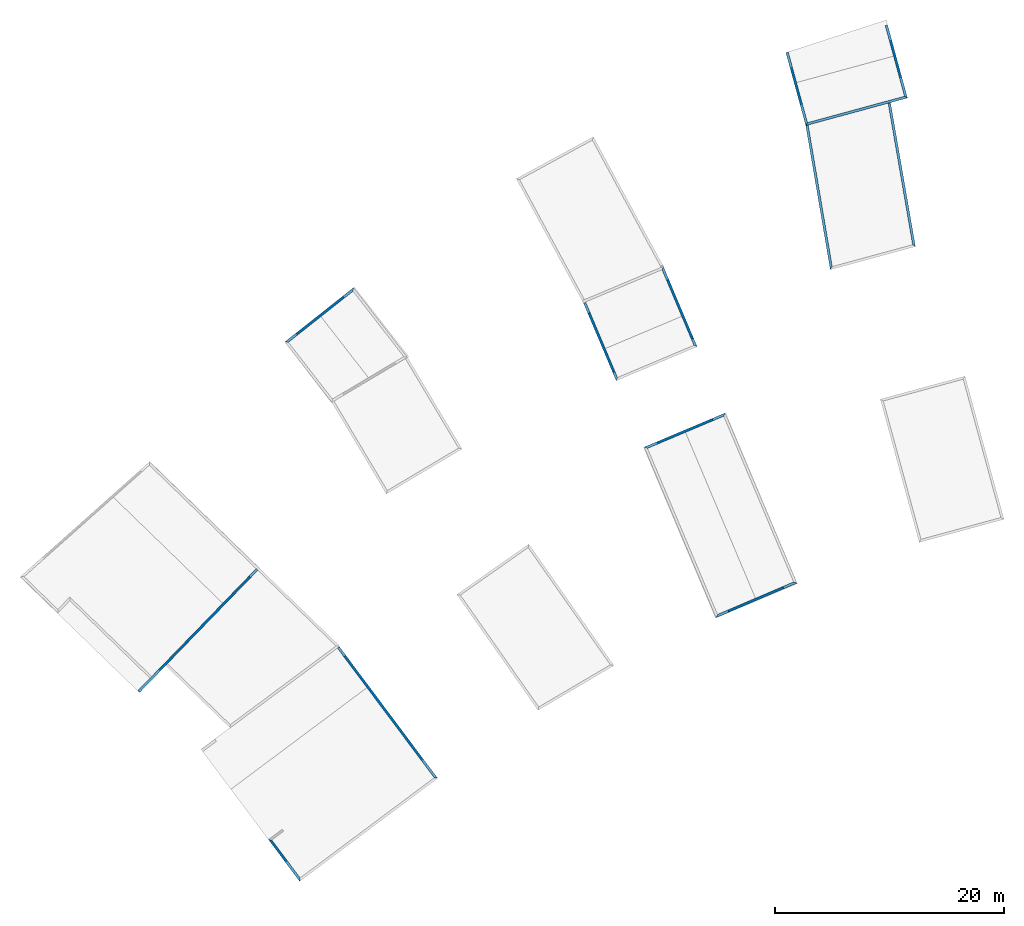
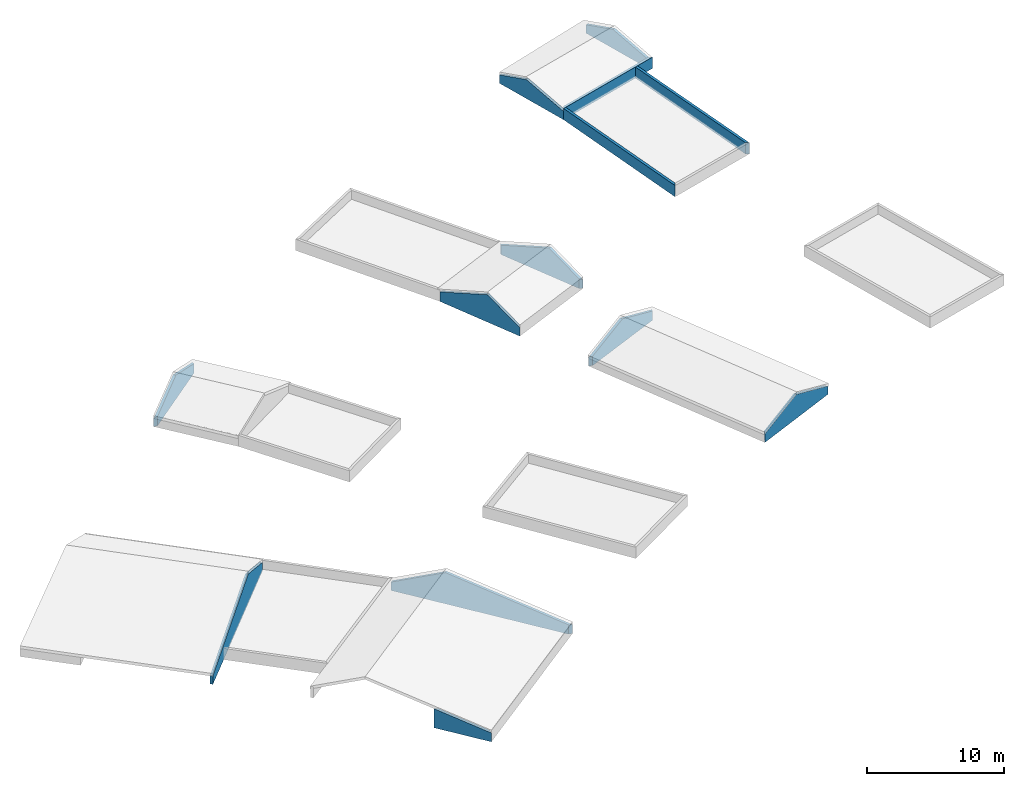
# One storey, part 3 of 4: 13 walls.
"""IFC2X3 building model written with IfcOpenShell, lengths in metres."""

from ifc_helpers import new_model, entity, si_unit, converted_unit, derived_unit, money_unit, direction, frame, origin_with_axes, place, context, subcontext, project, spatial, polyline, outline, extrude, boolean, faceted_brep, material, layer, layer_set, layer_usage, type_object, element, save


model = new_model("IFC2X3")

# Units and contexts
model_context = context("Model", 3, precision=1e-05, world=origin_with_axes(), true_north=direction((0.0, 1.0)))
body_context = subcontext(model_context, "Body", "Model", "MODEL_VIEW")
ifc_project = project(units=[si_unit("LENGTHUNIT", "METRE"), si_unit("AREAUNIT", "SQUARE_METRE"), si_unit("VOLUMEUNIT", "CUBIC_METRE"), converted_unit("PLANEANGLEUNIT", "DEGREE", entity("IfcPlaneAngleMeasure", 0.0174532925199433), si_unit("PLANEANGLEUNIT", "RADIAN"), dimensions=[0, 0, 0, 0, 0, 0, 0]), money_unit("CHF"), converted_unit("TIMEUNIT", "Year", entity("IfcTimeMeasure", 31557600.0), si_unit("TIMEUNIT", "SECOND"), dimensions=[0, 0, 1, 0, 0, 0, 0]), si_unit("MASSUNIT", "GRAM", prefix="KILO"), si_unit("THERMODYNAMICTEMPERATUREUNIT", "DEGREE_CELSIUS"), si_unit("LUMINOUSINTENSITYUNIT", "LUMEN"), si_unit("ENERGYUNIT", "JOULE", prefix="MEGA"), derived_unit("THERMALCONDUCTANCEUNIT", [(si_unit("POWERUNIT", "WATT"), 1), (si_unit("LENGTHUNIT", "METRE"), -1), (si_unit("THERMODYNAMICTEMPERATUREUNIT", "KELVIN"), -1)]), derived_unit("SPECIFICHEATCAPACITYUNIT", [(si_unit("ENERGYUNIT", "JOULE"), 1), (si_unit("MASSUNIT", "GRAM", prefix="KILO"), -1), (si_unit("THERMODYNAMICTEMPERATUREUNIT", "KELVIN"), -1)]), derived_unit("MASSDENSITYUNIT", [(si_unit("MASSUNIT", "GRAM", prefix="KILO"), 1), (si_unit("VOLUMEUNIT", "CUBIC_METRE"), -1)])], contexts=[model_context])

# Site, building, storey
site_placement = place(None, origin_with_axes())
site = spatial("IfcSite", under=ifc_project, at=site_placement, Name="Site", CompositionType="ELEMENT")
building_placement = place(site_placement, origin_with_axes())
building = spatial("IfcBuilding", under=site, at=building_placement, Name="Bâtiment", CompositionType="ELEMENT")
storey_placement = place(building_placement, frame((0.0, 0.0, 5.5), z_axis=(0.0, 0.0, 1.0), x_axis=(1.0, 0.0, 0.0)))
storey = spatial("IfcBuildingStorey", under=building, at=storey_placement, Name="Etage 2", CompositionType="ELEMENT", Elevation=5.5)

# Walls
ifc_material = material(Name="Empty Fill 3000033799")
ifc_layer = layer(ifc_material, 0.22, ventilated="UNKNOWN")
ifc_layer_set = layer_set([ifc_layer], Name="acrotère 22")
ifc_layer_usage_1 = layer_usage(ifc_layer_set, "AXIS2", "POSITIVE", 0.0)
wall_type = type_object("IfcWallType", Name="acrotère 22 220", PredefinedType="NOTDEFINED")
wall_1_placement = place(storey_placement, frame((9579.832207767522, -1023.042735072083, 57.7), z_axis=(0.0, 0.0, 1.0), x_axis=(0.9648682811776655, 0.2627340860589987, 0.0)))
element("IfcWallStandardCase", 1, at=wall_1_placement, inside=storey, type_object=wall_type, material=ifc_layer_usage_1, Name="Mur-136", context=body_context, shape_type="SweptSolid", body=[
    extrude(outline(polyline([(-4.379558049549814e-09, 0.0), (9.203564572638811, 0.0), (8.983564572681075, 0.2199999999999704), (0.2199999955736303, 0.2199999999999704), (-4.379558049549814e-09, 0.0)])), origin_with_axes(), (0.0, 0.0, 1.0), 1.0),
])
wall_2_placement = place(storey_placement, frame((9572.003445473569, -1066.004746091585, 57.7), z_axis=(0.0, 0.0, 1.0), x_axis=(0.9196673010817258, 0.3926984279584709, 0.0)))
element("IfcWall", 2, at=wall_2_placement, inside=storey, type_object=wall_type, material=ifc_material, Name="Mur-136", context=body_context, shape_type="CSG", body=[
    boolean("DIFFERENCE", extrude(outline(polyline([(0.0, 0.0), (7.670985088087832, 0.0), (7.670985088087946, 0.2199999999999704), (0.0, 0.2199999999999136), (0.0, 0.0)])), origin_with_axes(), (0.0, 0.0, 1.0), 2.401810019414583), faceted_brep([(0.0, 0.0, 0.7598554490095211), (3.824402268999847, 0.0, 2.151810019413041), (7.669997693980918, 0.0, 0.7521418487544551), (7.669997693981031, 0.0, 0.0), (7.670985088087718, 0.0, 0.0), (7.670985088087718, 0.0, 2.40181001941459), (0.0, 0.0, 2.40181001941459), (0.2209958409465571, 0.2199999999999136, 0.8399311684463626), (3.825389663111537, 0.2199999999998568, 2.151810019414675), (7.450982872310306, 0.2199999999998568, 0.8322153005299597), (7.450982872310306, 0.2199999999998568, 0.0), (7.670985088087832, 0.2199999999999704, 0.0), (7.670985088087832, 0.2199999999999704, 2.40181001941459), (0.0, 0.2199999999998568, 2.40181001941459), (0.0, 0.0, 0.0), (0.0, 0.2199999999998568, 0.0), (0.2209958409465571, 0.2199999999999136, 0.0)], [[[0, 1, 2, 3, 4, 5, 6]], [[1, 0, 7, 8]], [[2, 1, 8, 9]], [[3, 2, 9, 10]], [[3, 10, 11, 4]], [[5, 4, 11, 12]], [[13, 6, 5, 12]], [[14, 0, 6, 13, 15]], [[16, 7, 0, 14]], [[7, 16, 15, 13, 12, 11, 10, 9, 8]], [[16, 14, 15]]])),
])
wall_3_placement = place(storey_placement, frame((9578.094746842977, -1016.66205963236, 57.7), z_axis=(0.0, 0.0, 1.0), x_axis=(0.2627340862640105, -0.9648682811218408, 0.0)))
element("IfcWall", 3, at=wall_3_placement, inside=storey, type_object=wall_type, material=ifc_material, Name="Mur-136", context=body_context, shape_type="CSG", body=[
    boolean("DIFFERENCE", extrude(outline(polyline([(-0.0106371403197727, 0.0), (6.613001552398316, 0.0), (6.613001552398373, 0.2199999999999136), (-0.01063714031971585, 0.2200000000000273), (-0.0106371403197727, 0.0)])), origin_with_axes(), (0.0, 0.0, 1.0), 1.935716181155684), faceted_brep([(1.508055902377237e-10, 0.220000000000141, 0.7417163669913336), (0.0, 0.2200000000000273, 0.0), (-0.01063714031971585, 0.220000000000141, 0.0), (-0.01063714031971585, 0.220000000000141, 1.935716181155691), (6.613001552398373, 0.2199999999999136, 1.935716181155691), (6.613001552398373, 0.2199999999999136, 0.0), (6.393001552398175, 0.220000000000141, 0.0), (6.393001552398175, 0.220000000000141, 0.7991735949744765), (2.767444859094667, 0.2200000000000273, 1.699036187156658), (2.76744485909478, 0.2200000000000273, 1.685716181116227), (0.0, 0.0, 0.7417163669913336), (0.0, 0.0, 0.0), (-0.0106371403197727, 0.0, 0.0), (-0.0106371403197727, 0.0, 1.935716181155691), (6.613001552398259, 0.0, 1.935716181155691), (6.613001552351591, 4.379671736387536e-09, 0.7445696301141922), (6.613001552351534, 0.0, 0.0), (2.767444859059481, 0.0, 1.699036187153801), (2.767444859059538, 0.0, 1.685716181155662)], [[[0, 1, 2, 3, 4, 5, 6, 7, 8, 9]], [[1, 0, 10, 11]], [[1, 11, 12, 2]], [[3, 2, 12, 13]], [[3, 13, 14, 4]], [[15, 16, 5, 4, 14]], [[16, 6, 5]], [[7, 6, 16, 15]], [[8, 7, 15, 17]], [[9, 8, 17, 18]], [[0, 9, 18, 10]], [[17, 15, 14, 13, 12, 11, 10, 18]]])),
])
ifc_layer_usage_2 = layer_usage(ifc_layer_set, "AXIS2", "POSITIVE", 0.0)
wall_4_placement = place(storey_placement, frame((9579.832207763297, -1023.042735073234, 57.7), z_axis=(0.0, 0.0, 1.0), x_axis=(0.1677527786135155, -0.98582909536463, 0.0)))
element("IfcWallStandardCase", 4, at=wall_4_placement, inside=storey, type_object=wall_type, material=ifc_layer_usage_2, Name="Mur-136", context=body_context, shape_type="SweptSolid", body=[
    extrude(outline(polyline([(0.0, 0.0), (12.75935139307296, 0.0), (12.51683082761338, 0.2199999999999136), (-0.02147493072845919, 0.2200000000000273), (0.0, 0.0)])), origin_with_axes(), (0.0, 0.0, 1.0), 1.0),
])
wall_5_placement = place(storey_placement, frame((9572.789102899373, -1048.128803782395, 57.7), z_axis=(0.0, 0.0, 1.0), x_axis=(-0.9214205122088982, -0.3885669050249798, 0.0)))
element("IfcWall", 5, at=wall_5_placement, inside=storey, type_object=wall_type, material=ifc_material, Name="Mur-136", context=body_context, shape_type="CSG", body=[
    boolean("DIFFERENCE", extrude(outline(polyline([(0.0, 0.0), (7.669470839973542, 0.0), (7.669470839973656, 0.2200000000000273), (0.0, 0.2200000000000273), (0.0, 0.0)])), origin_with_axes(), (0.0, 0.0, 1.0), 2.401810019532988), faceted_brep([(0.0, 0.0, 0.0), (0.0, 0.0, 0.7521418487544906), (0.0, 0.0, 2.401810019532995), (0.0, 0.2199999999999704, 2.401810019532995), (0.0, 0.2199999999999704, 0.0), (0.2200000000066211, 0.2199999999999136, 0.0), (0.2200000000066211, 0.2199999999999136, 0.8322153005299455), (3.845556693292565, 0.0, 2.151810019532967), (7.669464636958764, 0.0, 0.7600213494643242), (7.669470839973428, 0.0, 2.401810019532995), (7.669470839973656, 0.2200000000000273, 2.401810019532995), (7.669470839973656, 0.2200000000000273, 0.0), (7.449470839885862, 0.2200000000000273, 0.0), (7.449470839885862, 0.2200000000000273, 0.8400925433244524), (3.845556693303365, 0.2199999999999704, 2.151810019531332), (7.669464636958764, 0.0, 0.0)], [[[0, 1, 2, 3, 4]], [[1, 0, 5, 6]], [[7, 8, 9, 2, 1]], [[3, 2, 9, 10]], [[6, 5, 4, 3, 10, 11, 12, 13, 14]], [[5, 0, 4]], [[7, 1, 6, 14]], [[14, 13, 8, 7]], [[8, 15, 11, 10, 9]], [[15, 12, 11]], [[13, 12, 15, 8]]])),
])
wall_6_placement = place(storey_placement, frame((9532.907405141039, -1085.373837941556, 57.7), z_axis=(0.0, 0.0, 1.0), x_axis=(0.5984464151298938, -0.8011628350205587, 0.0)))
element("IfcWall", 6, at=wall_6_placement, inside=storey, type_object=wall_type, material=ifc_material, Name="Mur-135", context=body_context, shape_type="CSG", body=[
    boolean("DIFFERENCE", extrude(outline(polyline([(0.0, 0.0), (4.566222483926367, 0.0), (4.566222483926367, 0.2200000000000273), (0.0, 0.2200000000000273), (0.0, 0.0)])), origin_with_axes(), (0.0, 0.0, 1.0), 3.0), faceted_brep([(0.2200000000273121, 0.2199999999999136, 1.657249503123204), (0.2200000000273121, 0.2199999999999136, 0.0), (0.0, 0.2200000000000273, 0.0), (0.0, 0.2200000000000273, 2.999999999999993), (4.566222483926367, 0.2200000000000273, 2.999999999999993), (4.566222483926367, 0.2200000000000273, 0.0), (4.346222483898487, 0.2199999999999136, 0.0), (4.346222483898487, 0.2199999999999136, 0.8353480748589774), (0.0, -2.459046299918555e-10, 1.701071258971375), (0.0, 0.0, 0.0), (0.0, 0.0, 2.999999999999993), (4.566222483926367, 0.0, 2.999999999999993), (4.566222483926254, 0.0, 0.7915263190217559), (4.56622248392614, 0.0, 0.0)], [[[0, 1, 2, 3, 4, 5, 6, 7]], [[1, 0, 8, 9]], [[1, 9, 2]], [[9, 8, 10, 3, 2]], [[3, 10, 11, 4]], [[12, 13, 5, 4, 11]], [[13, 6, 5]], [[7, 6, 13, 12]], [[0, 7, 12, 8]], [[8, 12, 11, 10]]])),
])
wall_7_placement = place(storey_placement, frame((9540.33908875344, -1037.19106813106, 57.7), z_axis=(0.0, 0.0, 1.0), x_axis=(-0.7843618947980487, -0.6203034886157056, 0.0)))
element("IfcWall", 7, at=wall_7_placement, inside=storey, type_object=wall_type, material=ifc_material, Name="Mur-136", context=body_context, shape_type="CSG", body=[
    boolean("DIFFERENCE", extrude(outline(polyline([(0.0, 0.0), (7.634837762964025, 0.0), (7.634837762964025, 0.220000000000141), (0.0, 0.2200000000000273), (0.0, 0.0)])), origin_with_axes(), (0.0, 0.0, 1.0), 2.398299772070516), faceted_brep([(0.0, 0.0, 0.0), (0.0, 0.0, 0.7687561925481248), (0.0, 0.0, 2.398299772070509), (0.0, 0.2200000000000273, 2.398299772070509), (0.0, 0.2200000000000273, 0.0), (0.2220718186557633, 0.2200000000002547, 0.0), (0.2220718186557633, 0.2200000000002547, 0.8488613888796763), (7.632738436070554, 0.0, 0.7498657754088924), (7.632738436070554, 0.0, 0.0), (7.634837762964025, 0.0, 0.0), (7.634837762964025, 0.0, 2.398299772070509), (3.792542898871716, 0.0, 2.14907325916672), (3.792542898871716, 0.0, 2.14752628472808), (7.634837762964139, 0.220000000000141, 2.398299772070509), (7.634837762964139, 0.220000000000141, 0.0), (7.414827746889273, 0.2200000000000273, 0.0), (7.414827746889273, 0.2200000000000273, 0.8298946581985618), (3.794453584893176, 0.2200000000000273, 2.14754995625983), (3.794453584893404, 0.2200000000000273, 2.149049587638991)], [[[0, 1, 2, 3, 4]], [[1, 0, 5, 6]], [[7, 8, 9, 10, 2, 1, 11, 12]], [[3, 2, 10, 13]], [[6, 5, 4, 3, 13, 14, 15, 16, 17, 18]], [[5, 0, 4]], [[11, 1, 6, 18]], [[16, 15, 8, 7]], [[8, 15, 14, 9]], [[10, 9, 14, 13]], [[18, 17, 12, 11]], [[17, 16, 7, 12]]])),
])
ifc_layer_usage_3 = layer_usage(ifc_layer_set, "AXIS2", "POSITIVE", 0.0)
wall_8_placement = place(storey_placement, frame((9589.408254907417, -1033.5965492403, 57.7), z_axis=(0.0, 0.0, 1.0), x_axis=(-0.1705561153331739, 0.9853479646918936, 0.0)))
element("IfcWallStandardCase", 8, at=wall_8_placement, inside=storey, type_object=wall_type, material=ifc_layer_usage_3, Name="Mur-136", context=body_context, shape_type="SweptSolid", body=[
    extrude(outline(polyline([(0.0, 0.0), (12.75586140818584, 0.0), (12.73501801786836, 0.2199999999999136), (0.2001417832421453, 0.2199999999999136), (0.0, 0.0)])), origin_with_axes(), (0.0, 0.0, 1.0), 1.0),
])
wall_9_placement = place(storey_placement, frame((9570.347446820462, -1042.33883051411, 57.7), z_axis=(0.0, 0.0, 1.0), x_axis=(-0.3885669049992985, 0.9214205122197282, 0.0)))
element("IfcWall", 9, at=wall_9_placement, inside=storey, type_object=wall_type, material=ifc_material, Name="Mur-136", context=body_context, shape_type="CSG", body=[
    boolean("DIFFERENCE", extrude(outline(polyline([(0.0, 0.0), (7.603324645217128, 0.0), (7.603324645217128, 0.2199999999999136), (0.0, 0.2199999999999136), (0.0, 0.0)])), origin_with_axes(), (0.0, 0.0, 1.0), 2.688661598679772), faceted_brep([(0.0, 0.0, 0.0), (-3.10592440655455e-10, 0.0, 0.7499999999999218), (0.0, 0.0, 2.688661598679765), (0.0, 0.2199999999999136, 2.688661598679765), (0.0, 0.2199999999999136, 0.0), (0.2200000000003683, 0.2200000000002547, 0.0), (0.2200000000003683, 0.2200000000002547, 0.8753491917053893), (2.96376503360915, 0.0, 2.438661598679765), (7.603324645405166, 0.0, 0.749999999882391), (7.603324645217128, 0.0, 2.688661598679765), (7.603324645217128, 0.2199999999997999, 2.688661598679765), (7.603324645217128, 0.2199999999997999, 0.0), (7.383324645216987, 0.2199999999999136, 0.0), (7.383324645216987, 0.2199999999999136, 0.8300734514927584), (2.963765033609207, 0.2199999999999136, 2.438661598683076), (7.603324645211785, 0.0, 0.0)], [[[0, 1, 2, 3, 4]], [[1, 0, 5, 6]], [[7, 8, 9, 2, 1]], [[3, 2, 9, 10]], [[6, 5, 4, 3, 10, 11, 12, 13, 14]], [[5, 0, 4]], [[7, 1, 6, 14]], [[8, 7, 14, 13]], [[8, 15, 11, 10, 9]], [[15, 12, 11]], [[15, 8, 13, 12]]])),
])
wall_10_placement = place(storey_placement, frame((9521.679936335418, -1072.517091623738, 57.7), z_axis=(0.0, 0.0, 1.0), x_axis=(0.6958610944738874, 0.7181763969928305, 0.0)))
element("IfcWall", 10, at=wall_10_placement, inside=storey, type_object=wall_type, material=ifc_material, Name="Mur-136", context=body_context, shape_type="CSG", body=[
    boolean("DIFFERENCE", extrude(outline(polyline([(0.0, 0.0), (15.04313195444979, 0.0), (15.04313195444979, 0.2200000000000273), (0.0, 0.2200000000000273), (0.0, 0.0)])), origin_with_axes(), (0.0, 0.0, 1.0), 2.87912425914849), faceted_brep([(10.62478886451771, 0.0, 2.629531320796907), (10.62478886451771, 0.0, 2.629124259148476), (14.82313195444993, 0.0, 0.8096897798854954), (14.82313195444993, 0.0, 0.0), (15.04313195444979, 0.0, 0.0), (15.04313195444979, 0.0, 2.879124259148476), (0.0, 0.0, 2.879124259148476), (0.0, 0.0, 0.7516713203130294), (10.62478886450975, 0.2200000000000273, 2.629531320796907), (10.62478886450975, 0.2200000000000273, 2.62912425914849), (14.8231319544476, 0.2200000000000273, 0.8096897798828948), (14.8231319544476, 0.2200000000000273, 0.0), (15.04313195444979, 0.2200000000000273, 0.0), (15.04313195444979, 0.2200000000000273, 2.879124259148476), (0.0, 0.2200000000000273, 2.879124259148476), (0.0, 0.2200000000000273, 0.7516713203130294)], [[[0, 1, 2, 3, 4, 5, 6, 7]], [[1, 0, 8, 9]], [[2, 1, 9, 10]], [[3, 2, 10, 11]], [[3, 11, 12, 4]], [[5, 4, 12, 13]], [[14, 6, 5, 13]], [[15, 7, 6, 14]], [[0, 7, 15, 8]], [[8, 15, 14, 13, 12, 11, 10, 9]]])),
])
wall_11_placement = place(storey_placement, frame((9588.712435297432, -1020.624644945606, 57.7), z_axis=(0.0, 0.0, 1.0), x_axis=(-0.2627340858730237, 0.9648682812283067, 0.0)))
element("IfcWall", 11, at=wall_11_placement, inside=storey, type_object=wall_type, material=ifc_material, Name="Mur-136", context=body_context, shape_type="CSG", body=[
    boolean("DIFFERENCE", extrude(outline(polyline([(0.0, 0.0), (7.057999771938, 0.0), (7.057999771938, 0.2200000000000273), (0.0, 0.2200000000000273), (0.0, 0.0)])), origin_with_axes(), (0.0, 0.0, 1.0), 1.935716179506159), faceted_brep([(0.0, 0.0, 0.0), (0.0, 0.0, 0.7445696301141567), (0.0, 0.0, 1.935716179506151), (0.0, 0.2200000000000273, 1.935716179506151), (0.0, 0.2200000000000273, 0.0), (0.2199999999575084, 0.2199999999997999, 0.0), (0.2199999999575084, 0.2199999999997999, 0.7991735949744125), (6.613001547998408, 1.248281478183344e-10, 0.7417163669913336), (6.613001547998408, 1.248281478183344e-10, 0.0), (7.057999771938, 0.0, 0.0), (7.057999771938, 0.0, 1.935716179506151), (3.845556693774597, 9.00399754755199e-10, 1.699036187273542), (3.845556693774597, 9.002860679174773e-10, 1.685716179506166), (7.057999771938, 0.2200000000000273, 1.935716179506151), (7.057999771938, 0.2200000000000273, 0.0), (6.613001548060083, 0.2200000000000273, 0.0), (6.613001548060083, 0.2199999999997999, 0.7417163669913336), (3.845556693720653, 0.2199999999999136, 1.685716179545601), (3.84555669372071, 0.2200000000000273, 1.699036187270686)], [[[0, 1, 2, 3, 4]], [[1, 0, 5, 6]], [[7, 8, 9, 10, 2, 1, 11, 12]], [[3, 2, 10, 13]], [[6, 5, 4, 3, 13, 14, 15, 16, 17, 18]], [[5, 0, 4]], [[11, 1, 6, 18]], [[8, 7, 16, 15]], [[8, 15, 14, 9]], [[10, 9, 14, 13]], [[12, 11, 18, 17]], [[7, 12, 17, 16]]])),
])
wall_12_placement = place(storey_placement, frame((9547.692042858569, -1080.029617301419, 57.7), z_axis=(0.0, 0.0, 1.0), x_axis=(-0.5984464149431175, 0.8011628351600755, 0.0)))
element("IfcWall", 12, at=wall_12_placement, inside=storey, type_object=wall_type, material=ifc_material, Name="Mur-135", context=body_context, shape_type="CSG", body=[
    boolean("DIFFERENCE", extrude(outline(polyline([(0.0, 0.0), (14.34645208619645, 0.0), (14.34645208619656, 0.2200000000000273), (0.0, 0.2200000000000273), (0.0, 0.0)])), origin_with_axes(), (0.0, 0.0, 1.0), 3.0), faceted_brep([(0.0, 0.0, 0.0), (0.0, 0.0, 0.7915263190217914), (0.0, 0.0, 2.999999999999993), (0.0, 0.2200000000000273, 2.999999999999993), (0.0, 0.2200000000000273, 0.0), (0.2199999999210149, 0.220000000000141, 0.0), (0.2199999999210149, 0.220000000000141, 0.8353480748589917), (10.0406748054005, 0.0, 2.778324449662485), (14.34645208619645, 0.0, 0.749080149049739), (14.34645208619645, 0.0, 2.999999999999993), (10.04067480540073, 3.241666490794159e-09, 2.791526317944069), (14.34645208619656, 0.2200000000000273, 2.999999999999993), (14.34645208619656, 0.2200000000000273, 0.7492597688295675), (10.0406748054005, 0.2200000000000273, 2.778504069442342), (10.04067480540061, 0.2200000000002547, 2.791526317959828)], [[[0, 1, 2, 3, 4]], [[1, 0, 5, 6]], [[7, 8, 9, 2, 1, 10]], [[3, 2, 9, 11]], [[6, 5, 4, 3, 11, 12, 13, 14]], [[5, 0, 4]], [[10, 1, 6, 14]], [[8, 7, 13, 12]], [[8, 12, 11, 9]], [[7, 10, 14, 13]]])),
])
wall_13_placement = place(storey_placement, frame((9560.431539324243, -1038.563917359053, 57.7), z_axis=(0.0, 0.0, 1.0), x_axis=(0.3885669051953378, -0.9214205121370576, 0.0)))
element("IfcWall", 13, at=wall_13_placement, inside=storey, type_object=wall_type, material=ifc_material, Name="Mur-136", context=body_context, shape_type="CSG", body=[
    boolean("DIFFERENCE", extrude(outline(polyline([(-2.289239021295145, 0.0), (7.331275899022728, 0.0), (7.331275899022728, 0.2200000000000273), (-2.289239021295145, 0.2200000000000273), (-2.289239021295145, 0.0)])), origin_with_axes(), (0.0, 0.0, 1.0), 2.688661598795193), faceted_brep([(-0.01059571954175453, 0.2200000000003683, 0.8451611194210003), (-0.01059571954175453, 0.2200000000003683, 0.0), (-2.289239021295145, 0.2200000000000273, 0.0), (-2.289239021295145, 0.2200000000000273, 2.688661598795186), (7.331275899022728, 0.2200000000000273, 2.688661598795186), (7.331275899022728, 0.2200000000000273, 0.0), (7.111275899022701, 0.220000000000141, 0.0), (7.111275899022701, 0.220000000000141, 0.8753491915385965), (4.367510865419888, 0.220000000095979, 2.438661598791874), (0.0, 1.51248968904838e-09, 0.8490176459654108), (0.0, 0.0, 0.0), (-2.289239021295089, 0.0, 0.0), (-2.289239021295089, 0.0, 2.688661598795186), (7.331275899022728, 0.0, 2.688661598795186), (7.331275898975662, 0.0, 0.7500000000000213), (7.331275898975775, 0.0, 0.0), (4.367510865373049, 3.250306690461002e-10, 2.438661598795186)], [[[0, 1, 2, 3, 4, 5, 6, 7, 8]], [[1, 0, 9, 10]], [[1, 10, 11, 2]], [[3, 2, 11, 12]], [[3, 12, 13, 4]], [[14, 15, 5, 4, 13]], [[15, 6, 5]], [[7, 6, 15, 14]], [[8, 7, 14, 16]], [[0, 8, 16, 9]], [[16, 14, 13, 12, 11, 10, 9]]])),
])

save(model, "model.ifc")
